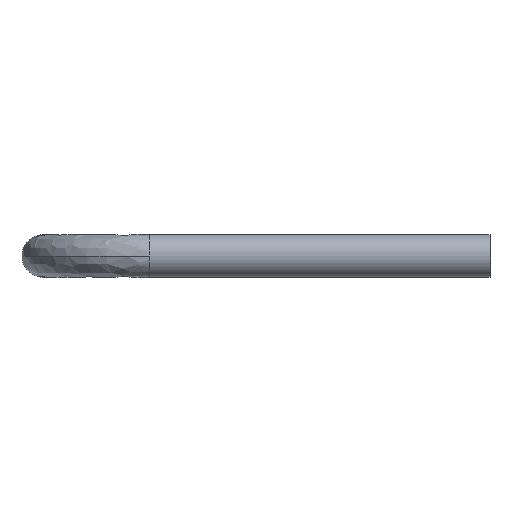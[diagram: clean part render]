
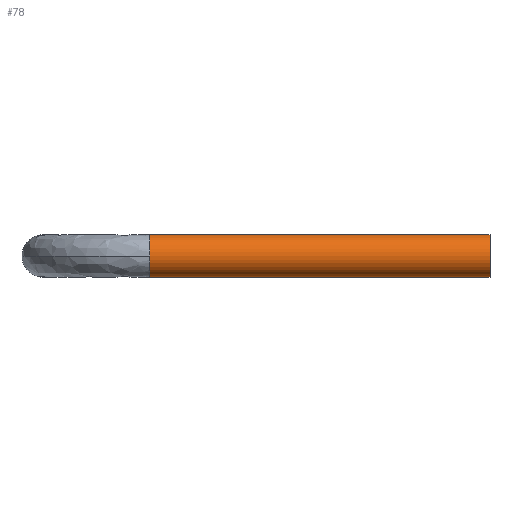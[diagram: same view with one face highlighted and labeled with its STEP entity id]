
A CAD part, left-side view. The second image highlights one B-rep face of the part: STEP entity #78.
In plain terms, the highlighted cylindrical face has radius 3.175 mm (diameter 6.35 mm), a partial arc.
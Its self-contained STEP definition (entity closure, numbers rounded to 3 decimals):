
#18 = AXIS2_PLACEMENT_3D ( 'NONE', #475, #477, #469 ) ;
#29 = VECTOR ( 'NONE', #307, 1000. ) ;
#40 = CIRCLE ( 'NONE', #396, 3.175 ) ;
#63 = EDGE_CURVE ( 'NONE', #392, #275, #245, .T. ) ;
#76 = LINE ( 'NONE', #304, #29 ) ;
#78 = ADVANCED_FACE ( 'NONE', ( #149 ), #427, .T. ) ;
#111 = CARTESIAN_POINT ( 'NONE',  ( 0., 0., 3.175 ) ) ;
#114 = EDGE_CURVE ( 'NONE', #337, #127, #488, .T. ) ;
#117 = DIRECTION ( 'NONE',  ( 0., 0., -1. ) ) ;
#127 = VERTEX_POINT ( 'NONE', #111 ) ;
#149 = FACE_OUTER_BOUND ( 'NONE', #189, .T. ) ;
#168 = DIRECTION ( 'NONE',  ( 0., 0., -1. ) ) ;
#171 = ORIENTED_EDGE ( 'NONE', *, *, #63, .T. ) ;
#173 = DIRECTION ( 'NONE',  ( 0., -1., 0. ) ) ;
#178 = DIRECTION ( 'NONE',  ( 0., -1., 0. ) ) ;
#181 = CARTESIAN_POINT ( 'NONE',  ( 0., 50.8, 3.175 ) ) ;
#189 = EDGE_LOOP ( 'NONE', ( #211, #344, #171, #446, #388 ) ) ;
#211 = ORIENTED_EDGE ( 'NONE', *, *, #114, .F. ) ;
#226 = AXIS2_PLACEMENT_3D ( 'NONE', #267, #173, #168 ) ;
#227 = EDGE_CURVE ( 'NONE', #337, #392, #40, .T. ) ;
#235 = EDGE_CURVE ( 'NONE', #275, #387, #76, .T. ) ;
#245 = CIRCLE ( 'NONE', #226, 3.175 ) ;
#249 = DIRECTION ( 'NONE',  ( 0., -1., 0. ) ) ;
#262 = VECTOR ( 'NONE', #178, 1000. ) ;
#267 = CARTESIAN_POINT ( 'NONE',  ( 0., 50.8, 0. ) ) ;
#275 = VERTEX_POINT ( 'NONE', #336 ) ;
#292 = CARTESIAN_POINT ( 'NONE',  ( 0., 50.8, 0. ) ) ;
#304 = CARTESIAN_POINT ( 'NONE',  ( 0., 50.8, -3.175 ) ) ;
#307 = DIRECTION ( 'NONE',  ( 0., -1., 0. ) ) ;
#309 = EDGE_CURVE ( 'NONE', #387, #127, #433, .T. ) ;
#319 = CARTESIAN_POINT ( 'NONE',  ( 0., 50.8, 0. ) ) ;
#323 = DIRECTION ( 'NONE',  ( 0., -1., 0. ) ) ;
#326 = DIRECTION ( 'NONE',  ( 0., 0., -1. ) ) ;
#336 = CARTESIAN_POINT ( 'NONE',  ( 0., 50.8, -3.175 ) ) ;
#337 = VERTEX_POINT ( 'NONE', #452 ) ;
#344 = ORIENTED_EDGE ( 'NONE', *, *, #227, .T. ) ;
#387 = VERTEX_POINT ( 'NONE', #482 ) ;
#388 = ORIENTED_EDGE ( 'NONE', *, *, #309, .T. ) ;
#392 = VERTEX_POINT ( 'NONE', #505 ) ;
#396 = AXIS2_PLACEMENT_3D ( 'NONE', #319, #323, #326 ) ;
#427 = CYLINDRICAL_SURFACE ( 'NONE', #486, 3.175 ) ;
#433 = CIRCLE ( 'NONE', #18, 3.175 ) ;
#446 = ORIENTED_EDGE ( 'NONE', *, *, #235, .T. ) ;
#452 = CARTESIAN_POINT ( 'NONE',  ( 0., 50.8, 3.175 ) ) ;
#469 = DIRECTION ( 'NONE',  ( 0., 0., -1. ) ) ;
#475 = CARTESIAN_POINT ( 'NONE',  ( 0., 0., 0. ) ) ;
#477 = DIRECTION ( 'NONE',  ( 0., 1., 0. ) ) ;
#482 = CARTESIAN_POINT ( 'NONE',  ( 0., 0., -3.175 ) ) ;
#486 = AXIS2_PLACEMENT_3D ( 'NONE', #292, #249, #117 ) ;
#488 = LINE ( 'NONE', #181, #262 ) ;
#505 = CARTESIAN_POINT ( 'NONE',  ( -3.175, 50.8, 0. ) ) ;
